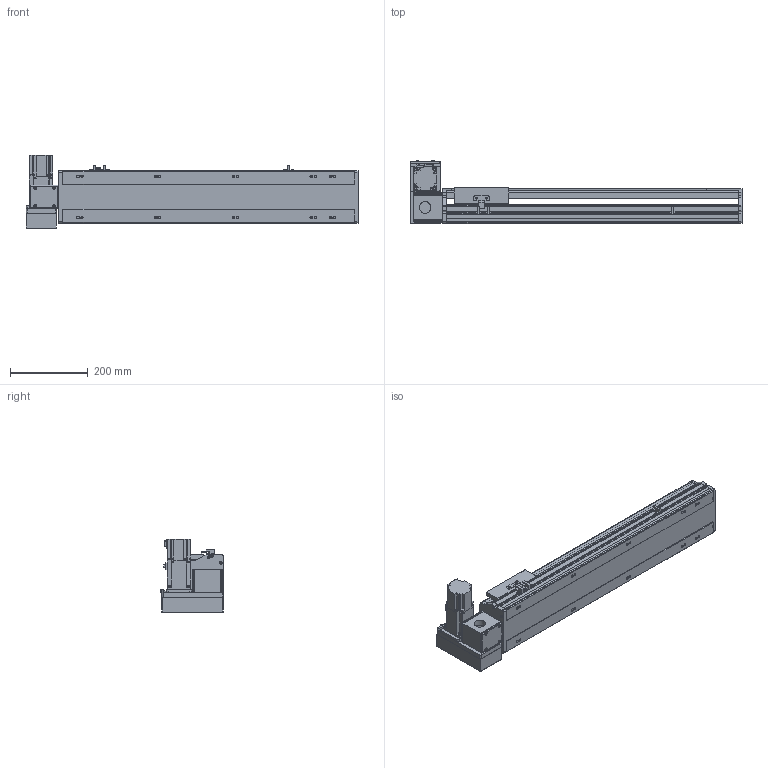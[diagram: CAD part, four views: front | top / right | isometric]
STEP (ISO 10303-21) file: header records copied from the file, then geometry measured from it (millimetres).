
FILE_DESCRIPTION( ( 'STEP AP214' ), '1' );
FILE_NAME( 'x:/temp/worker_6/temp/exporttempdir_5396_122_m7eF5/format_0/PBS140S-P40-S500-LU-T40-C1-N(0).stp', '2022-06-09T00:33:27', ( 'License CC BY-ND 4.0' ), ( 'CADENAS' ), ' ', 'PARTsolutions', ' ' );
FILE_SCHEMA( ( 'AUTOMOTIVE_DESIGN { 1 0 10303 214 1 1 1 1 }' ) );
Length unit declared in the file: millimetre
Products named in the file (7): PBS140S-P40-S500-LU-T40-C1-N(0); _PBS140S-S500()_body; _PBS140ST-LU_motors; _T40-p1; _PBS140S_sliser; _PBS140S_plant; _PBS140S_sensor
Assembly tree (8 placements, depth 2):
  PBS140S-P40-S500-LU-T40-C1-N(0)
    _PBS140S-S500()_body
    _PBS140ST-LU_motors
    _T40-p1
    _PBS140S_sliser
    _PBS140S_plant
    _PBS140S_sensor  x3
Bounding box: 854 x 162.5 x 189.7 mm (x, y, z)
Volume: 4761067.7 mm3; surface area: 847142.9 mm2
Topology: 8 solids, 8 shells, 1051 faces, 2791 edges, 1827 vertices
Faces by surface type: plane 684, cylinder 321, cone 36, sphere 8, torus 2
Full cylindrical faces by diameter (mm): 3.242 x4, 4 x2, 4.134 x4, 4.4 x8, 4.5 x2, 4.8 x4, 4.917 x18, 5.5 x7, 6 x2, 7 x12, 7.5 x8, 8 x12, 8.5 x4, 10.5 x10, 14 x1, 30 x2, 50 x2
Entity records: 38410 total; most frequent: CARTESIAN_POINT 5902, DIRECTION 5138, ORIENTED_EDGE 4882, EDGE_CURVE 2441, AXIS2_PLACEMENT_3D 1769, VERTEX_POINT 1681, LINE 1600, VECTOR 1600
